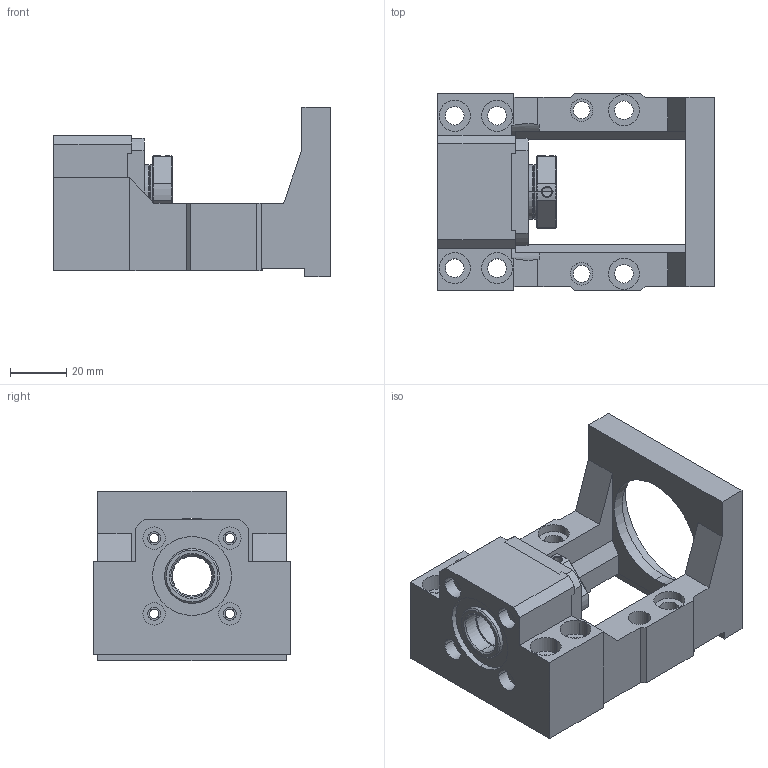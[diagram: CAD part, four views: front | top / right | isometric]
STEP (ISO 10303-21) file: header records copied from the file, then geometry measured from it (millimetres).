
FILE_DESCRIPTION((''),'2;1');
FILE_NAME('MBCB15-DP_4_ASM','2020-05-07T',('Administrator'),(''),'PRO/ENGINEER BY PARAMETRIC TECHNOLOGY CORPORATION, 2010280','PRO/ENGINEER BY PARAMETRIC TECHNOLOGY CORPORATION, 2010280','');
FILE_SCHEMA(('CONFIG_CONTROL_DESIGN'));
Length unit declared in the file: millimetre
Products named in the file (8): MANIFOLD_SOLID_BREP_597; MBCB15-DP_ASM; MBCB15-DP_1; 1; MBCB15-DP_3_ASM; MBCB15-DP_2; _MBCB15-DP_4; MBCB15-DP_4_ASM
Assembly tree (7 placements, depth 3):
  MBCB15-DP_4_ASM
    MBCB15-DP_ASM
      MANIFOLD_SOLID_BREP_597
    MBCB15-DP_1
    MBCB15-DP_3_ASM
      1
    MBCB15-DP_2
    _MBCB15-DP_4
Bounding box: 98 x 70 x 60 mm (x, y, z)
Volume: 132997.3 mm3; surface area: 45269.5 mm2
Topology: 5 solids, 5 shells, 246 faces, 620 edges, 395 vertices
Faces by surface type: cylinder 110, plane 92, cone 40, bspline 4
Entity records: 8028 total; most frequent: CARTESIAN_POINT 1716, DIRECTION 1352, ORIENTED_EDGE 1224, EDGE_CURVE 612, AXIS2_PLACEMENT_3D 515, VERTEX_POINT 395, VECTOR 322, LINE 322
